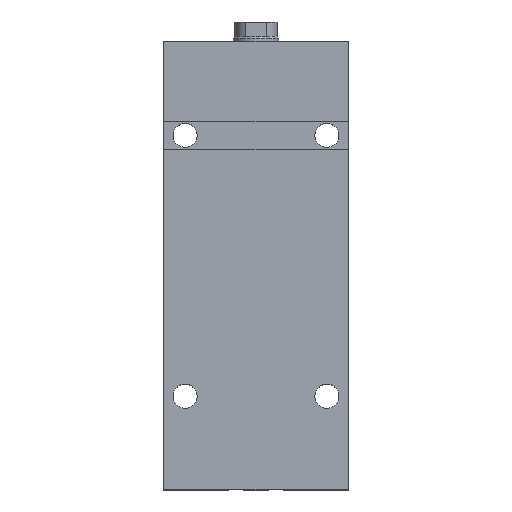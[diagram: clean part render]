
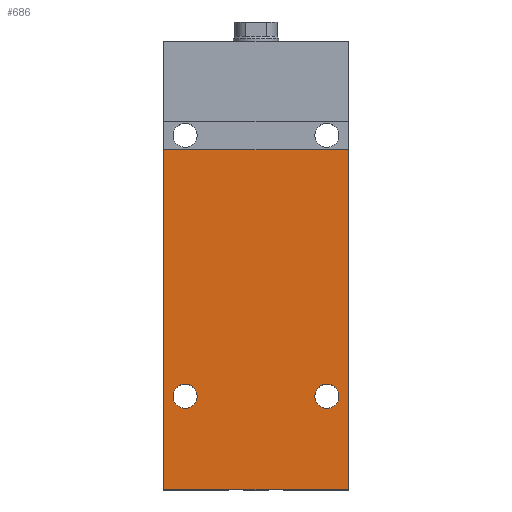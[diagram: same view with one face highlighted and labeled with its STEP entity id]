
A CAD part, top view. The second image highlights one B-rep face of the part: STEP entity #686.
In plain terms, the highlighted planar face has unit normal (0, 0, 1).
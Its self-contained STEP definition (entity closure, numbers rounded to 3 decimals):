
#43 = EDGE_CURVE ( 'NONE', #2507, #1553, #2481, .T. ) ;
#77 = DIRECTION ( 'NONE',  ( 0., 0., -1. ) ) ;
#157 = DIRECTION ( 'NONE',  ( 0., 0., 1. ) ) ;
#177 = DIRECTION ( 'NONE',  ( 1., 0., 0. ) ) ;
#211 = CARTESIAN_POINT ( 'NONE',  ( 25., 33., 22.5 ) ) ;
#255 = CIRCLE ( 'NONE', #2854, 4.25 ) ;
#256 = CARTESIAN_POINT ( 'NONE',  ( -32.5, 0., 22.5 ) ) ;
#388 = DIRECTION ( 'NONE',  ( 0., -1., 0. ) ) ;
#397 = CARTESIAN_POINT ( 'NONE',  ( -32.5, 120., 22.5 ) ) ;
#448 = CARTESIAN_POINT ( 'NONE',  ( -25., 33., 22.5 ) ) ;
#488 = DIRECTION ( 'NONE',  ( 0., -1., 0. ) ) ;
#493 = CARTESIAN_POINT ( 'NONE',  ( 29.25, 33., 22.5 ) ) ;
#499 = PLANE ( 'NONE',  #2397 ) ;
#588 = FACE_OUTER_BOUND ( 'NONE', #2164, .T. ) ;
#686 = ADVANCED_FACE ( 'NONE', ( #2023, #771, #588 ), #499, .F. ) ;
#706 = VERTEX_POINT ( 'NONE', #493 ) ;
#745 = CARTESIAN_POINT ( 'NONE',  ( -25., 33., 22.5 ) ) ;
#751 = EDGE_CURVE ( 'NONE', #1875, #813, #1723, .T. ) ;
#771 = FACE_BOUND ( 'NONE', #1169, .T. ) ;
#813 = VERTEX_POINT ( 'NONE', #2407 ) ;
#912 = EDGE_CURVE ( 'NONE', #706, #922, #255, .T. ) ;
#921 = AXIS2_PLACEMENT_3D ( 'NONE', #745, #2798, #2147 ) ;
#922 = VERTEX_POINT ( 'NONE', #1732 ) ;
#925 = ORIENTED_EDGE ( 'NONE', *, *, #1865, .F. ) ;
#952 = CARTESIAN_POINT ( 'NONE',  ( -32.5, 58., 22.5 ) ) ;
#957 = CARTESIAN_POINT ( 'NONE',  ( -32.5, 120., 22.5 ) ) ;
#1054 = LINE ( 'NONE', #2305, #2301 ) ;
#1067 = ORIENTED_EDGE ( 'NONE', *, *, #1769, .F. ) ;
#1113 = VECTOR ( 'NONE', #1712, 1000. ) ;
#1169 = EDGE_LOOP ( 'NONE', ( #1634, #1067 ) ) ;
#1284 = EDGE_CURVE ( 'NONE', #2392, #813, #1054, .T. ) ;
#1342 = LINE ( 'NONE', #957, #2524 ) ;
#1482 = CIRCLE ( 'NONE', #2348, 4.25 ) ;
#1506 = LINE ( 'NONE', #952, #1691 ) ;
#1553 = VERTEX_POINT ( 'NONE', #2233 ) ;
#1560 = ORIENTED_EDGE ( 'NONE', *, *, #1284, .F. ) ;
#1577 = CARTESIAN_POINT ( 'NONE',  ( 25., 33., 22.5 ) ) ;
#1595 = ORIENTED_EDGE ( 'NONE', *, *, #2427, .F. ) ;
#1622 = VERTEX_POINT ( 'NONE', #397 ) ;
#1634 = ORIENTED_EDGE ( 'NONE', *, *, #912, .F. ) ;
#1636 = AXIS2_PLACEMENT_3D ( 'NONE', #448, #3043, #2869 ) ;
#1647 = CARTESIAN_POINT ( 'NONE',  ( 32.5, 120., 22.5 ) ) ;
#1691 = VECTOR ( 'NONE', #488, 1000. ) ;
#1712 = DIRECTION ( 'NONE',  ( 1., 0., 0. ) ) ;
#1723 = LINE ( 'NONE', #2894, #1113 ) ;
#1732 = CARTESIAN_POINT ( 'NONE',  ( 20.75, 33., 22.5 ) ) ;
#1769 = EDGE_CURVE ( 'NONE', #922, #706, #1482, .T. ) ;
#1841 = DIRECTION ( 'NONE',  ( 1., 0., 0. ) ) ;
#1865 = EDGE_CURVE ( 'NONE', #1622, #2392, #1342, .T. ) ;
#1875 = VERTEX_POINT ( 'NONE', #256 ) ;
#2023 = FACE_BOUND ( 'NONE', #2530, .T. ) ;
#2089 = ORIENTED_EDGE ( 'NONE', *, *, #43, .F. ) ;
#2147 = DIRECTION ( 'NONE',  ( 1., 0., 0. ) ) ;
#2164 = EDGE_LOOP ( 'NONE', ( #1560, #925, #2337, #2523 ) ) ;
#2170 = DIRECTION ( 'NONE',  ( -1., 0., 0. ) ) ;
#2233 = CARTESIAN_POINT ( 'NONE',  ( -29.25, 33., 22.5 ) ) ;
#2301 = VECTOR ( 'NONE', #388, 1000. ) ;
#2305 = CARTESIAN_POINT ( 'NONE',  ( 32.5, 58., 22.5 ) ) ;
#2337 = ORIENTED_EDGE ( 'NONE', *, *, #2590, .T. ) ;
#2348 = AXIS2_PLACEMENT_3D ( 'NONE', #211, #3014, #1841 ) ;
#2356 = CARTESIAN_POINT ( 'NONE',  ( -20.75, 33., 22.5 ) ) ;
#2392 = VERTEX_POINT ( 'NONE', #1647 ) ;
#2397 = AXIS2_PLACEMENT_3D ( 'NONE', #2884, #77, #2170 ) ;
#2407 = CARTESIAN_POINT ( 'NONE',  ( 32.5, 0., 22.5 ) ) ;
#2427 = EDGE_CURVE ( 'NONE', #1553, #2507, #2479, .T. ) ;
#2479 = CIRCLE ( 'NONE', #1636, 4.25 ) ;
#2481 = CIRCLE ( 'NONE', #921, 4.25 ) ;
#2507 = VERTEX_POINT ( 'NONE', #2356 ) ;
#2523 = ORIENTED_EDGE ( 'NONE', *, *, #751, .T. ) ;
#2524 = VECTOR ( 'NONE', #2615, 1000. ) ;
#2530 = EDGE_LOOP ( 'NONE', ( #2089, #1595 ) ) ;
#2590 = EDGE_CURVE ( 'NONE', #1622, #1875, #1506, .T. ) ;
#2615 = DIRECTION ( 'NONE',  ( 1., 0., 0. ) ) ;
#2798 = DIRECTION ( 'NONE',  ( 0., 0., 1. ) ) ;
#2854 = AXIS2_PLACEMENT_3D ( 'NONE', #1577, #157, #177 ) ;
#2869 = DIRECTION ( 'NONE',  ( 1., 0., 0. ) ) ;
#2884 = CARTESIAN_POINT ( 'NONE',  ( -32.5, 58., 22.5 ) ) ;
#2894 = CARTESIAN_POINT ( 'NONE',  ( -32.5, 0., 22.5 ) ) ;
#3014 = DIRECTION ( 'NONE',  ( 0., 0., 1. ) ) ;
#3043 = DIRECTION ( 'NONE',  ( 0., 0., 1. ) ) ;
